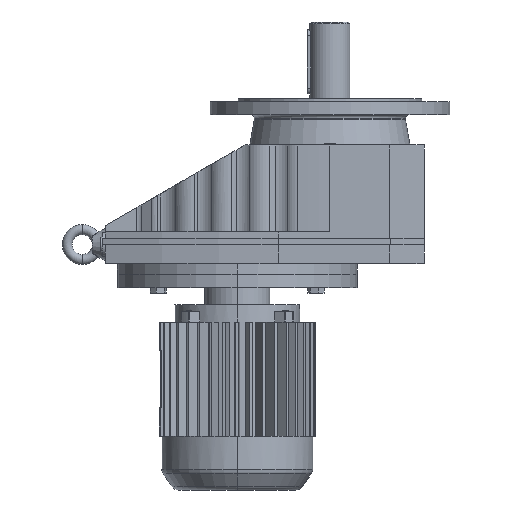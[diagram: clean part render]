
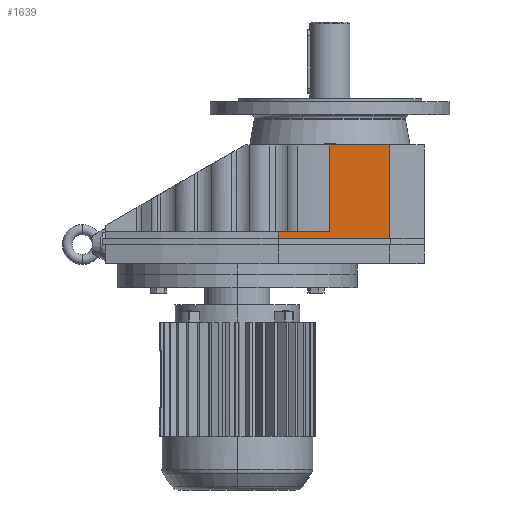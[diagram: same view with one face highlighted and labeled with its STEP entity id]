
A CAD part, left-side view. The second image highlights one B-rep face of the part: STEP entity #1639.
In plain terms, the highlighted planar face has unit normal (-1, 0, 0).
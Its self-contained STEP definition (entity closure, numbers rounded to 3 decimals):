
#59 = PLANE('',#60);
#60 = AXIS2_PLACEMENT_3D('',#61,#62,#63);
#61 = CARTESIAN_POINT('',(-445.092,-51.35,162.));
#62 = DIRECTION('',(0.,0.,1.));
#63 = DIRECTION('',(1.,0.,0.));
#113 = PLANE('',#114);
#114 = AXIS2_PLACEMENT_3D('',#115,#116,#117);
#115 = CARTESIAN_POINT('',(-100.538,125.79,53.149));
#116 = DIRECTION('',(0.,0.,1.));
#117 = DIRECTION('',(-1.,0.,0.));
#138 = CYLINDRICAL_SURFACE('',#139,442.495);
#139 = AXIS2_PLACEMENT_3D('',#140,#141,#142);
#140 = CARTESIAN_POINT('',(282.495,-116.,53.149));
#141 = DIRECTION('',(0.,0.,1.));
#142 = DIRECTION('',(1.,0.,0.));
#155 = VERTEX_POINT('',#156);
#156 = CARTESIAN_POINT('',(-160.,-51.35,53.149));
#171 = CYLINDRICAL_SURFACE('',#172,605.092);
#172 = AXIS2_PLACEMENT_3D('',#173,#174,#175);
#173 = CARTESIAN_POINT('',(445.092,-51.35,162.));
#174 = DIRECTION('',(0.,0.,-1.));
#175 = DIRECTION('',(-1.,0.,0.));
#182 = EDGE_CURVE('',#155,#183,#185,.T.);
#183 = VERTEX_POINT('',#184);
#184 = CARTESIAN_POINT('',(-160.,-116.,53.149));
#185 = SURFACE_CURVE('',#186,(#190,#197),.PCURVE_S1.);
#186 = LINE('',#187,#188);
#187 = CARTESIAN_POINT('',(-160.,-190.8,53.149));
#188 = VECTOR('',#189,1.);
#189 = DIRECTION('',(0.,-1.,0.));
#190 = PCURVE('',#113,#191);
#191 = DEFINITIONAL_REPRESENTATION('',(#192),#196);
#192 = LINE('',#193,#194);
#193 = CARTESIAN_POINT('',(59.463,316.59));
#194 = VECTOR('',#195,1.);
#195 = DIRECTION('',(0.,1.));
#196 = ( GEOMETRIC_REPRESENTATION_CONTEXT(2) 
PARAMETRIC_REPRESENTATION_CONTEXT() REPRESENTATION_CONTEXT('2D SPACE',''
  ) );
#197 = PCURVE('',#198,#203);
#198 = PLANE('',#199);
#199 = AXIS2_PLACEMENT_3D('',#200,#201,#202);
#200 = CARTESIAN_POINT('',(-160.,-190.8,162.));
#201 = DIRECTION('',(1.,0.,0.));
#202 = DIRECTION('',(0.,1.,0.));
#203 = DEFINITIONAL_REPRESENTATION('',(#204),#208);
#204 = LINE('',#205,#206);
#205 = CARTESIAN_POINT('',(0.,-108.851));
#206 = VECTOR('',#207,1.);
#207 = DIRECTION('',(-1.,0.));
#208 = ( GEOMETRIC_REPRESENTATION_CONTEXT(2) 
PARAMETRIC_REPRESENTATION_CONTEXT() REPRESENTATION_CONTEXT('2D SPACE',''
  ) );
#764 = VERTEX_POINT('',#765);
#765 = CARTESIAN_POINT('',(-160.,-116.,162.));
#788 = EDGE_CURVE('',#183,#764,#789,.T.);
#789 = SURFACE_CURVE('',#790,(#794,#800),.PCURVE_S1.);
#790 = LINE('',#791,#792);
#791 = CARTESIAN_POINT('',(-160.,-116.,53.149));
#792 = VECTOR('',#793,1.);
#793 = DIRECTION('',(0.,0.,1.));
#794 = PCURVE('',#138,#795);
#795 = DEFINITIONAL_REPRESENTATION('',(#796),#799);
#796 = B_SPLINE_CURVE_WITH_KNOTS('',1,(#797,#798),.UNSPECIFIED.,.F.,.F.,
  (2,2),(0.,108.851),.PIECEWISE_BEZIER_KNOTS.);
#797 = CARTESIAN_POINT('',(3.142,0.));
#798 = CARTESIAN_POINT('',(3.142,108.851));
#799 = ( GEOMETRIC_REPRESENTATION_CONTEXT(2) 
PARAMETRIC_REPRESENTATION_CONTEXT() REPRESENTATION_CONTEXT('2D SPACE',''
  ) );
#800 = PCURVE('',#198,#801);
#801 = DEFINITIONAL_REPRESENTATION('',(#802),#806);
#802 = LINE('',#803,#804);
#803 = CARTESIAN_POINT('',(74.8,-108.851));
#804 = VECTOR('',#805,1.);
#805 = DIRECTION('',(0.,1.));
#806 = ( GEOMETRIC_REPRESENTATION_CONTEXT(2) 
PARAMETRIC_REPRESENTATION_CONTEXT() REPRESENTATION_CONTEXT('2D SPACE',''
  ) );
#977 = EDGE_CURVE('',#764,#978,#980,.T.);
#978 = VERTEX_POINT('',#979);
#979 = CARTESIAN_POINT('',(-160.,-190.8,162.));
#980 = SURFACE_CURVE('',#981,(#985,#992),.PCURVE_S1.);
#981 = LINE('',#982,#983);
#982 = CARTESIAN_POINT('',(-160.,-190.8,162.));
#983 = VECTOR('',#984,1.);
#984 = DIRECTION('',(0.,-1.,0.));
#985 = PCURVE('',#59,#986);
#986 = DEFINITIONAL_REPRESENTATION('',(#987),#991);
#987 = LINE('',#988,#989);
#988 = CARTESIAN_POINT('',(285.092,-139.45));
#989 = VECTOR('',#990,1.);
#990 = DIRECTION('',(0.,-1.));
#991 = ( GEOMETRIC_REPRESENTATION_CONTEXT(2) 
PARAMETRIC_REPRESENTATION_CONTEXT() REPRESENTATION_CONTEXT('2D SPACE',''
  ) );
#992 = PCURVE('',#198,#993);
#993 = DEFINITIONAL_REPRESENTATION('',(#994),#998);
#994 = LINE('',#995,#996);
#995 = CARTESIAN_POINT('',(0.,0.));
#996 = VECTOR('',#997,1.);
#997 = DIRECTION('',(-1.,0.));
#998 = ( GEOMETRIC_REPRESENTATION_CONTEXT(2) 
PARAMETRIC_REPRESENTATION_CONTEXT() REPRESENTATION_CONTEXT('2D SPACE',''
  ) );
#1016 = PLANE('',#1017);
#1017 = AXIS2_PLACEMENT_3D('',#1018,#1019,#1020);
#1018 = CARTESIAN_POINT('',(-116.8,-234.,162.));
#1019 = DIRECTION('',(0.707,0.707,0.));
#1020 = DIRECTION('',(-0.707,0.707,0.));
#1639 = ADVANCED_FACE('',(#1640),#198,.F.);
#1640 = FACE_BOUND('',#1641,.T.);
#1641 = EDGE_LOOP('',(#1642,#1664,#1692,#1713,#1714,#1715));
#1642 = ORIENTED_EDGE('',*,*,#1643,.T.);
#1643 = EDGE_CURVE('',#155,#1644,#1646,.T.);
#1644 = VERTEX_POINT('',#1645);
#1645 = CARTESIAN_POINT('',(-160.,-51.35,45.219));
#1646 = SURFACE_CURVE('',#1647,(#1651,#1658),.PCURVE_S1.);
#1647 = LINE('',#1648,#1649);
#1648 = CARTESIAN_POINT('',(-160.,-51.35,162.));
#1649 = VECTOR('',#1650,1.);
#1650 = DIRECTION('',(0.,0.,-1.));
#1651 = PCURVE('',#198,#1652);
#1652 = DEFINITIONAL_REPRESENTATION('',(#1653),#1657);
#1653 = LINE('',#1654,#1655);
#1654 = CARTESIAN_POINT('',(139.45,0.));
#1655 = VECTOR('',#1656,1.);
#1656 = DIRECTION('',(0.,-1.));
#1657 = ( GEOMETRIC_REPRESENTATION_CONTEXT(2) 
PARAMETRIC_REPRESENTATION_CONTEXT() REPRESENTATION_CONTEXT('2D SPACE',''
  ) );
#1658 = PCURVE('',#171,#1659);
#1659 = DEFINITIONAL_REPRESENTATION('',(#1660),#1663);
#1660 = B_SPLINE_CURVE_WITH_KNOTS('',1,(#1661,#1662),.UNSPECIFIED.,.F.,
  .F.,(2,2),(108.851,116.781),.PIECEWISE_BEZIER_KNOTS.);
#1661 = CARTESIAN_POINT('',(0.,108.851));
#1662 = CARTESIAN_POINT('',(0.,116.781));
#1663 = ( GEOMETRIC_REPRESENTATION_CONTEXT(2) 
PARAMETRIC_REPRESENTATION_CONTEXT() REPRESENTATION_CONTEXT('2D SPACE',''
  ) );
#1664 = ORIENTED_EDGE('',*,*,#1665,.F.);
#1665 = EDGE_CURVE('',#1666,#1644,#1668,.T.);
#1666 = VERTEX_POINT('',#1667);
#1667 = CARTESIAN_POINT('',(-160.,-190.8,45.219));
#1668 = SURFACE_CURVE('',#1669,(#1673,#1680),.PCURVE_S1.);
#1669 = LINE('',#1670,#1671);
#1670 = CARTESIAN_POINT('',(-160.,-190.8,45.219));
#1671 = VECTOR('',#1672,1.);
#1672 = DIRECTION('',(0.,1.,0.));
#1673 = PCURVE('',#198,#1674);
#1674 = DEFINITIONAL_REPRESENTATION('',(#1675),#1679);
#1675 = LINE('',#1676,#1677);
#1676 = CARTESIAN_POINT('',(0.,-116.781));
#1677 = VECTOR('',#1678,1.);
#1678 = DIRECTION('',(1.,0.));
#1679 = ( GEOMETRIC_REPRESENTATION_CONTEXT(2) 
PARAMETRIC_REPRESENTATION_CONTEXT() REPRESENTATION_CONTEXT('2D SPACE',''
  ) );
#1680 = PCURVE('',#1681,#1686);
#1681 = PLANE('',#1682);
#1682 = AXIS2_PLACEMENT_3D('',#1683,#1684,#1685);
#1683 = CARTESIAN_POINT('',(-445.092,-51.35,45.219));
#1684 = DIRECTION('',(0.,0.,1.));
#1685 = DIRECTION('',(1.,0.,0.));
#1686 = DEFINITIONAL_REPRESENTATION('',(#1687),#1691);
#1687 = LINE('',#1688,#1689);
#1688 = CARTESIAN_POINT('',(285.092,-139.45));
#1689 = VECTOR('',#1690,1.);
#1690 = DIRECTION('',(0.,1.));
#1691 = ( GEOMETRIC_REPRESENTATION_CONTEXT(2) 
PARAMETRIC_REPRESENTATION_CONTEXT() REPRESENTATION_CONTEXT('2D SPACE',''
  ) );
#1692 = ORIENTED_EDGE('',*,*,#1693,.F.);
#1693 = EDGE_CURVE('',#978,#1666,#1694,.T.);
#1694 = SURFACE_CURVE('',#1695,(#1699,#1706),.PCURVE_S1.);
#1695 = LINE('',#1696,#1697);
#1696 = CARTESIAN_POINT('',(-160.,-190.8,162.));
#1697 = VECTOR('',#1698,1.);
#1698 = DIRECTION('',(0.,0.,-1.));
#1699 = PCURVE('',#198,#1700);
#1700 = DEFINITIONAL_REPRESENTATION('',(#1701),#1705);
#1701 = LINE('',#1702,#1703);
#1702 = CARTESIAN_POINT('',(0.,0.));
#1703 = VECTOR('',#1704,1.);
#1704 = DIRECTION('',(0.,-1.));
#1705 = ( GEOMETRIC_REPRESENTATION_CONTEXT(2) 
PARAMETRIC_REPRESENTATION_CONTEXT() REPRESENTATION_CONTEXT('2D SPACE',''
  ) );
#1706 = PCURVE('',#1016,#1707);
#1707 = DEFINITIONAL_REPRESENTATION('',(#1708),#1712);
#1708 = LINE('',#1709,#1710);
#1709 = CARTESIAN_POINT('',(61.094,0.));
#1710 = VECTOR('',#1711,1.);
#1711 = DIRECTION('',(0.,-1.));
#1712 = ( GEOMETRIC_REPRESENTATION_CONTEXT(2) 
PARAMETRIC_REPRESENTATION_CONTEXT() REPRESENTATION_CONTEXT('2D SPACE',''
  ) );
#1713 = ORIENTED_EDGE('',*,*,#977,.F.);
#1714 = ORIENTED_EDGE('',*,*,#788,.F.);
#1715 = ORIENTED_EDGE('',*,*,#182,.F.);
